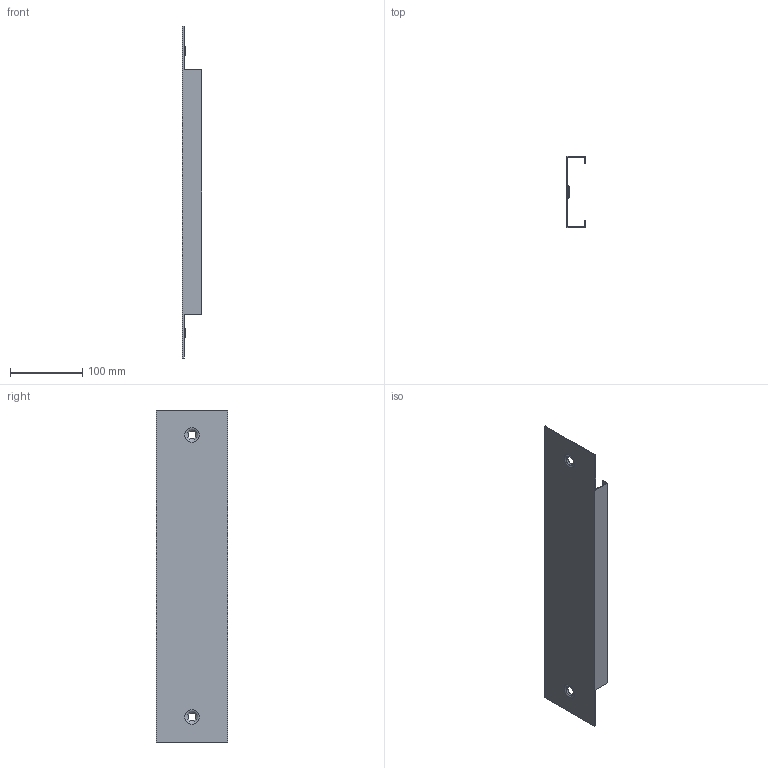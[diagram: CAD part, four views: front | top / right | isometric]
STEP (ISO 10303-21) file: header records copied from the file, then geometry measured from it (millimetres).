
FILE_DESCRIPTION( ( 'STEP AP214' ), '1' );
FILE_NAME( 'p:/temp/worker_202/temp/exporttempdir_568_633_LdpxO/format_0/PS1050(0).stp', '2021-03-16T11:32:20', ( 'License CC BY-ND 4.0' ), ( 'CADENAS' ), ' ', 'PARTsolutions', ' ' );
FILE_SCHEMA( ( 'AUTOMOTIVE_DESIGN { 1 0 10303 214 1 1 1 1 }' ) );
Length unit declared in the file: millimetre
Products named in the file (1): _PS1050(0)
Bounding box: 26.5 x 98 x 458 mm (x, y, z)
Volume: 101373.6 mm3; surface area: 137145.9 mm2
Topology: 1 solids, 1 shells, 32 faces, 82 edges, 52 vertices
Faces by surface type: plane 22, cone 6, torus 4
Entity records: 1184 total; most frequent: CARTESIAN_POINT 157, DIRECTION 150, ORIENTED_EDGE 144, EDGE_CURVE 72, LINE 60, VECTOR 60, VERTEX_POINT 52, EDGE_LOOP 46
